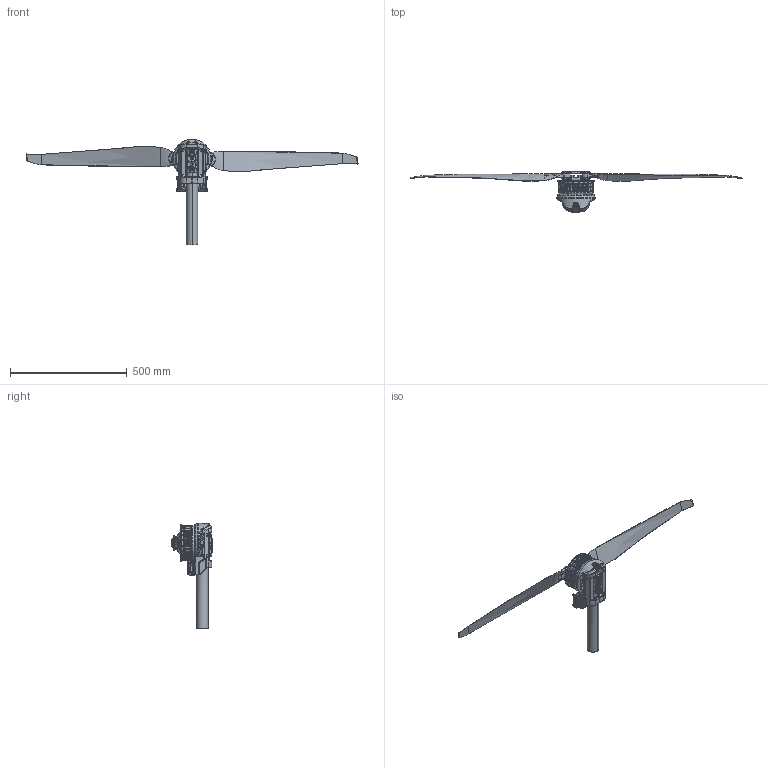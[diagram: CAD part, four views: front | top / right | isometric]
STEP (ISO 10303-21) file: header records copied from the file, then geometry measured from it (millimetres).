
FILE_DESCRIPTION (( 'STEP AP214' ), '1' );
FILE_NAME ('AWD11050031-珨极趙萇儂-A.STEP', '2026-03-06T01:49:02', ( '' ), ( '' ), 'SwSTEP 2.0', 'SolidWorks 2022', '' );
FILE_SCHEMA (( 'AUTOMOTIVE_DESIGN' ));
Length unit declared in the file: millimetre
Products named in the file (1): AWD11050031-一体化电机-A
Bounding box: 1423.49 x 177.1 x 451 mm (x, y, z)
Volume: 2787522.1 mm3; surface area: 897024.9 mm2
Topology: 67 solids, 76 shells, 6698 faces, 17365 edges, 10803 vertices
Faces by surface type: cylinder 2785, plane 2318, bspline 761, cone 407, torus 331, sphere 96
Entity records: 342840 total; most frequent: CARTESIAN_POINT 109258, ORIENTED_EDGE 34572, DIRECTION 32628, EDGE_CURVE 17286, AXIS2_PLACEMENT_3D 12106, VERTEX_POINT 10803, LINE 8416, VECTOR 8416
